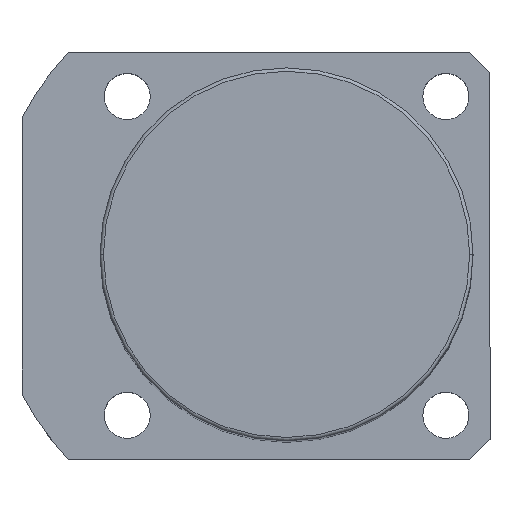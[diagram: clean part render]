
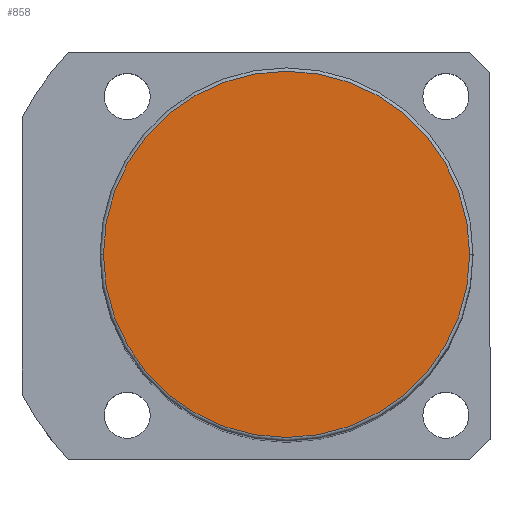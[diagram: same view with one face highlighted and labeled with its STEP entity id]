
A CAD part, top view. The second image highlights one B-rep face of the part: STEP entity #858.
In plain terms, the highlighted planar face has unit normal (0, 0, 1).
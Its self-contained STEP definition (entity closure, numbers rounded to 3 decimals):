
#45 = DIRECTION ( 'NONE',  ( 1., 0., 0. ) ) ;
#57 = EDGE_CURVE ( 'NONE', #777, #939, #1717, .T. ) ;
#85 = ORIENTED_EDGE ( 'NONE', *, *, #160, .T. ) ;
#160 = EDGE_CURVE ( 'NONE', #939, #777, #804, .T. ) ;
#164 = CARTESIAN_POINT ( 'NONE',  ( 0., 0., 136. ) ) ;
#339 = AXIS2_PLACEMENT_3D ( 'NONE', #1439, #1140, #45 ) ;
#378 = DIRECTION ( 'NONE',  ( 0., 0., 1. ) ) ;
#540 = CARTESIAN_POINT ( 'NONE',  ( 0., 0., 136. ) ) ;
#581 = DIRECTION ( 'NONE',  ( 0., 0., 1. ) ) ;
#620 = EDGE_LOOP ( 'NONE', ( #1201, #85 ) ) ;
#750 = DIRECTION ( 'NONE',  ( 1., 0., 0. ) ) ;
#777 = VERTEX_POINT ( 'NONE', #1238 ) ;
#804 = CIRCLE ( 'NONE', #1634, 27. ) ;
#805 = AXIS2_PLACEMENT_3D ( 'NONE', #164, #581, #750 ) ;
#858 = ADVANCED_FACE ( 'NONE', ( #1530 ), #1005, .T. ) ;
#939 = VERTEX_POINT ( 'NONE', #1663 ) ;
#1005 = PLANE ( 'NONE',  #339 ) ;
#1140 = DIRECTION ( 'NONE',  ( 0., 0., 1. ) ) ;
#1201 = ORIENTED_EDGE ( 'NONE', *, *, #57, .T. ) ;
#1238 = CARTESIAN_POINT ( 'NONE',  ( 27., 0., 136. ) ) ;
#1439 = CARTESIAN_POINT ( 'NONE',  ( 0., 0., 136. ) ) ;
#1530 = FACE_OUTER_BOUND ( 'NONE', #620, .T. ) ;
#1634 = AXIS2_PLACEMENT_3D ( 'NONE', #540, #378, #1647 ) ;
#1647 = DIRECTION ( 'NONE',  ( 1., 0., 0. ) ) ;
#1663 = CARTESIAN_POINT ( 'NONE',  ( -27., 0., 136. ) ) ;
#1717 = CIRCLE ( 'NONE', #805, 27. ) ;
